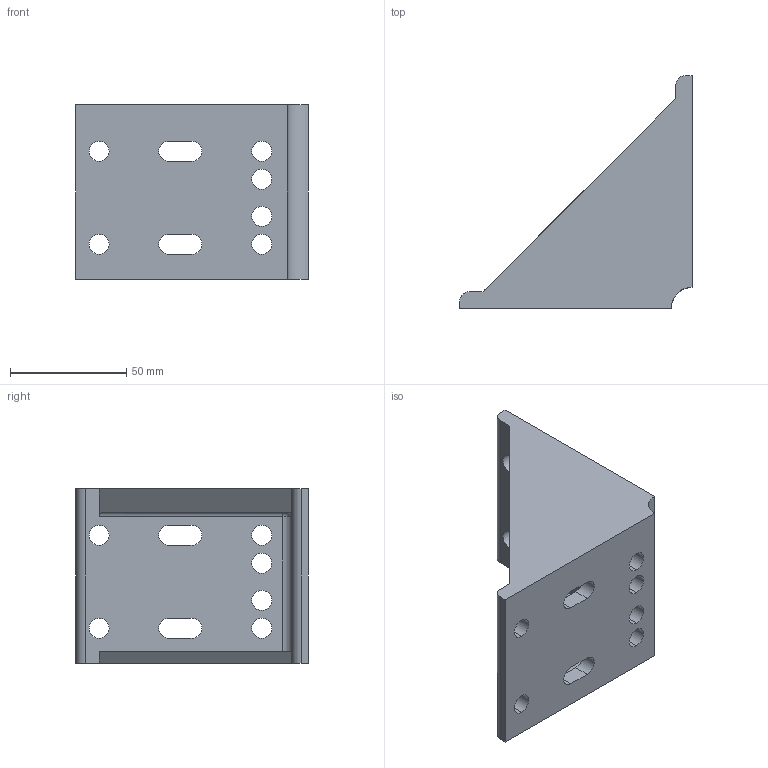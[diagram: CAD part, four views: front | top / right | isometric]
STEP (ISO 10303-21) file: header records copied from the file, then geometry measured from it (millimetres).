
FILE_DESCRIPTION (( 'STEP AP203' ), '1' );
FILE_NAME ('TLB75100-8.STEP', '2024-02-19T06:26:47', ( '' ), ( '' ), 'SwSTEP 2.0', 'SolidWorks 2022', '' );
FILE_SCHEMA (( 'CONFIG_CONTROL_DESIGN' ));
Length unit declared in the file: millimetre
Products named in the file (1): TLB75100-8
Bounding box: 100 x 100 x 75 mm (x, y, z)
Volume: 139138 mm3; surface area: 45852.2 mm2
Topology: 1 solids, 1 shells, 61 faces, 175 edges, 116 vertices
Faces by surface type: cylinder 40, plane 20, torus 1
Entity records: 2173 total; most frequent: DIRECTION 376, CARTESIAN_POINT 359, ORIENTED_EDGE 350, EDGE_CURVE 175, AXIS2_PLACEMENT_3D 141, VERTEX_POINT 116, VECTOR 94, LINE 94
